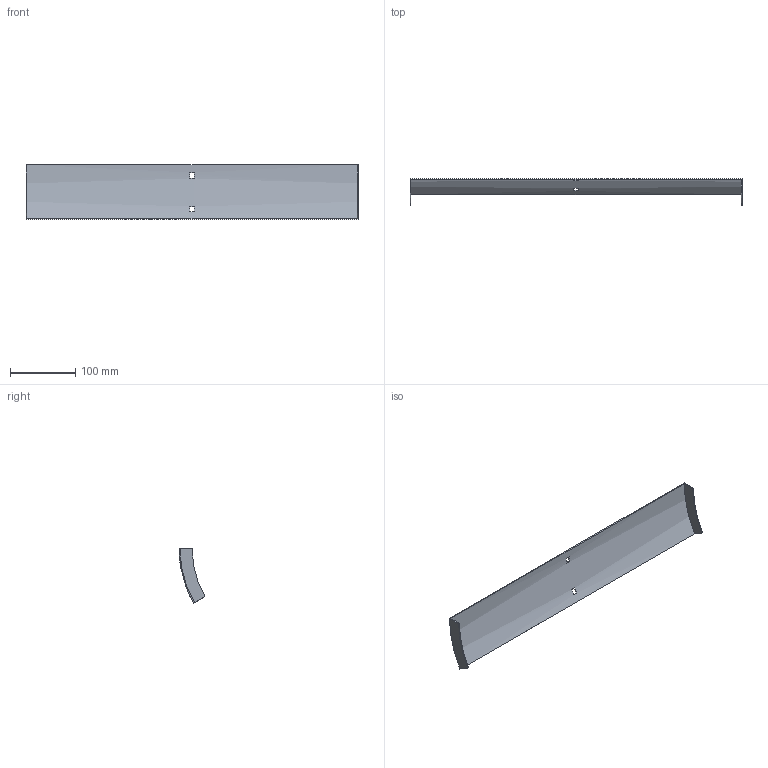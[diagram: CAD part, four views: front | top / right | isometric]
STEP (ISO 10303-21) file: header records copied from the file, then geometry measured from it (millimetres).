
FILE_DESCRIPTION (( 'STEP AP214' ), '1' );
FILE_NAME ('35N1H500.step', '2025-02-21T09:12:42', ( '' ), ( '' ), 'SwSTEP 2.0', 'SolidWorks 2023', '' );
FILE_SCHEMA (( 'AUTOMOTIVE_DESIGN' ));
Length unit declared in the file: millimetre
Products named in the file (1): 35N1H500
Bounding box: 507 x 39.69 x 83.5 mm (x, y, z)
Volume: 70564.4 mm3; surface area: 96043.5 mm2
Topology: 1 solids, 1 shells, 18 faces, 48 edges, 32 vertices
Faces by surface type: plane 14, cylinder 4
Entity records: 599 total; most frequent: DIRECTION 102, CARTESIAN_POINT 99, ORIENTED_EDGE 96, EDGE_CURVE 48, AXIS2_PLACEMENT_3D 35, VERTEX_POINT 32, VECTOR 32, LINE 32
